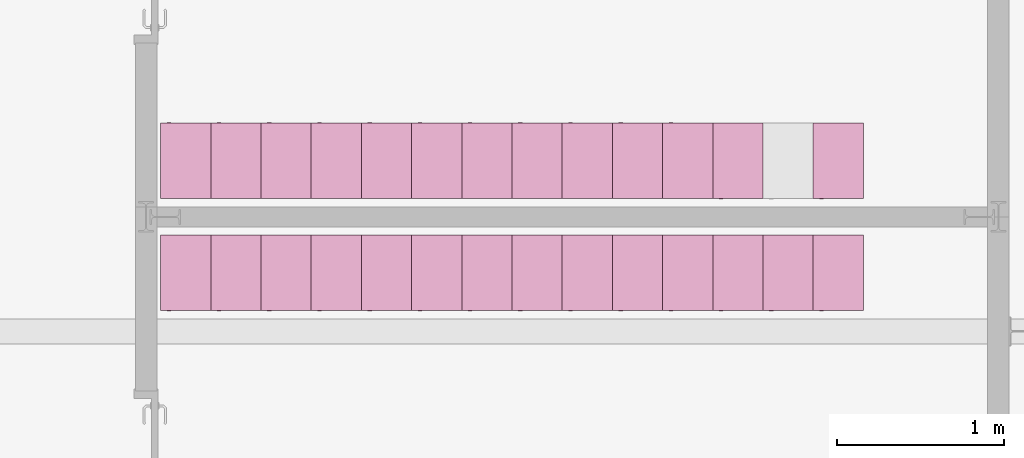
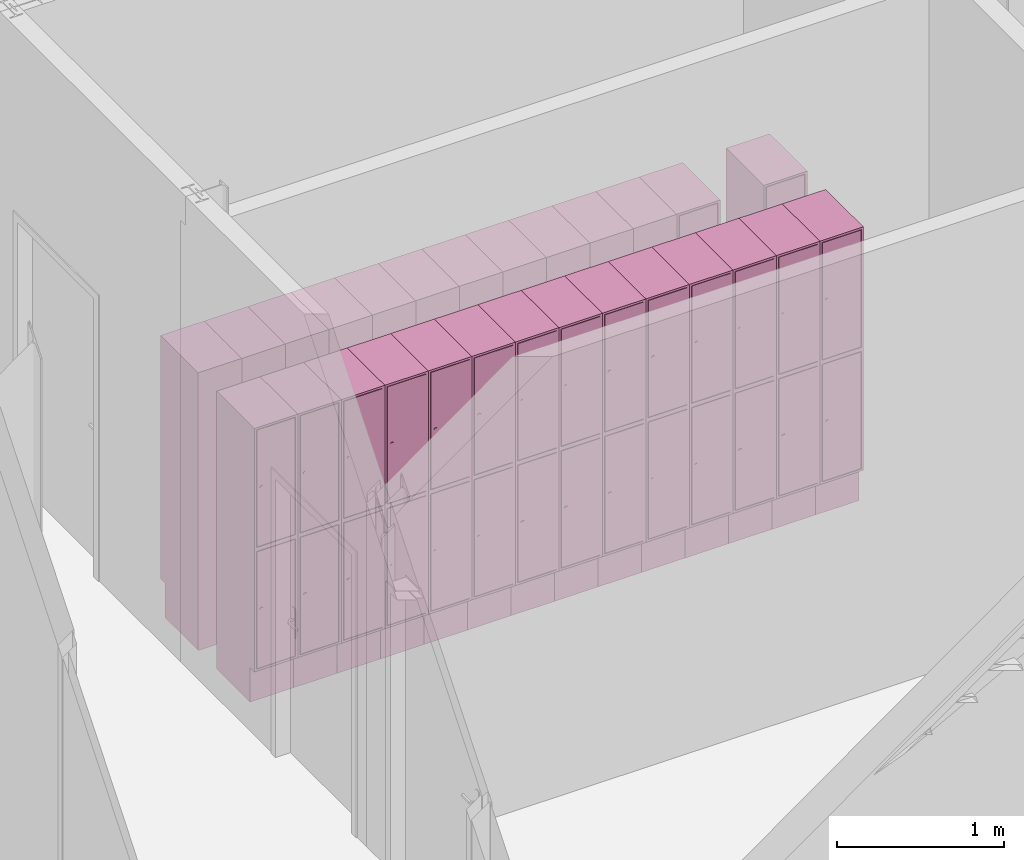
# One storey, part 119 of 137: 27 furnishings.
"""IFC2X3 building model written with IfcOpenShell, lengths in centimetres."""

from ifc_helpers import new_model, entity, si_unit, converted_unit, derived_unit, direction, frame, origin, place, context, subcontext, project, spatial, faceted_brep, source, transform, mapped, material, material_list, type_object, type_shapes, element, save


model = new_model("IFC2X3")

# Units and contexts
model_context = context("Model", 3, precision=0.001, world=origin(), true_north=direction((6.12303176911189e-17, 1.0)))
body_context = subcontext(model_context, "Body", "Model", "MODEL_VIEW")
ifc_project = project(units=[si_unit("LENGTHUNIT", "METRE", prefix="CENTI"), si_unit("AREAUNIT", "SQUARE_METRE"), si_unit("VOLUMEUNIT", "CUBIC_METRE"), converted_unit("PLANEANGLEUNIT", "DEGREE", entity("IfcRatioMeasure", 0.0174532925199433), si_unit("PLANEANGLEUNIT", "RADIAN"), dimensions=[0, 0, 0, 0, 0, 0, 0]), si_unit("MASSUNIT", "GRAM", prefix="KILO"), si_unit("TIMEUNIT", "SECOND"), si_unit("FREQUENCYUNIT", "HERTZ"), si_unit("THERMODYNAMICTEMPERATUREUNIT", "DEGREE_CELSIUS"), derived_unit("THERMALTRANSMITTANCEUNIT", [(si_unit("MASSUNIT", "GRAM", prefix="KILO"), 1), (si_unit("THERMODYNAMICTEMPERATUREUNIT", "KELVIN"), -1), (si_unit("TIMEUNIT", "SECOND"), -3)]), derived_unit("VOLUMETRICFLOWRATEUNIT", [(si_unit("LENGTHUNIT", "METRE"), 3), (si_unit("TIMEUNIT", "SECOND"), -1)]), si_unit("ELECTRICCURRENTUNIT", "AMPERE"), si_unit("ELECTRICVOLTAGEUNIT", "VOLT"), si_unit("POWERUNIT", "WATT"), si_unit("FORCEUNIT", "NEWTON", prefix="KILO"), si_unit("ILLUMINANCEUNIT", "LUX"), si_unit("LUMINOUSFLUXUNIT", "LUMEN"), si_unit("LUMINOUSINTENSITYUNIT", "CANDELA"), derived_unit("USERDEFINED", [(si_unit("MASSUNIT", "GRAM", prefix="KILO"), -1), (si_unit("LENGTHUNIT", "METRE"), -2), (si_unit("TIMEUNIT", "SECOND"), 3), (si_unit("LUMINOUSFLUXUNIT", "LUMEN"), 1)]), derived_unit("LINEARVELOCITYUNIT", [(si_unit("LENGTHUNIT", "METRE"), 1), (si_unit("TIMEUNIT", "SECOND"), -1)]), si_unit("PRESSUREUNIT", "PASCAL"), derived_unit("USERDEFINED", [(si_unit("LENGTHUNIT", "METRE"), -2), (si_unit("MASSUNIT", "GRAM", prefix="KILO"), 1), (si_unit("TIMEUNIT", "SECOND"), -2)])], contexts=[model_context])

# Site, building, storey, space
site_placement = place(None, frame((8.62739174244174, -249.285249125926, 0.0)))
site = spatial("IfcSite", under=ifc_project, at=site_placement, Name="Default", CompositionType="ELEMENT")
building_placement = place(site_placement, origin())
building = spatial("IfcBuilding", under=site, at=building_placement, CompositionType="ELEMENT")
storey_placement = place(building_placement, origin())
storey = spatial("IfcBuildingStorey", under=building, at=storey_placement, Name="RDC", CompositionType="ELEMENT", Elevation=-8.82465566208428e-11)
space_1_placement = place(storey_placement, origin())
space_1 = spatial("IfcSpace", under=storey, at=space_1_placement, Name="078", CompositionType="ELEMENT", InteriorOrExteriorSpace="INTERNAL")

# Furnishings
ifc_material_1 = material(Name="Peinture - Grise")
ifc_material_2 = material(Name="Peinture - Blanc")
ifc_material_list_1 = material_list([ifc_material_1, ifc_material_2])
ifc_material_list_2 = material_list([ifc_material_1, ifc_material_2])
furniture_type_1 = type_object("IfcFurnitureType", Name="Casiers 1x2", AssemblyPlace="NOTDEFINED", material=ifc_material_list_2)
shared_shape_1 = source(origin(), body_context, "Body", "Brep", [
    faceted_brep([(4.63888665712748, 0.299999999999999, 70.5824072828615), (4.96241046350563, 0.299999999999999, 70.6250000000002), (5.28593426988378, 0.299999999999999, 70.5824072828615), (5.58741046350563, 0.299999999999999, 70.4575317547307), (5.84629393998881, 0.299999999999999, 70.2588834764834), (6.04494221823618, 0.299999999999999, 70.0), (6.16981774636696, 0.299999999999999, 69.6985238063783), (6.21241046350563, 0.299999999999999, 69.3750000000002), (6.16981774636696, 0.299999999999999, 69.051476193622), (6.04494221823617, 0.299999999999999, 68.7500000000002), (5.84629393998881, 0.299999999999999, 68.491116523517), (5.58741046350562, 0.299999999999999, 68.2924682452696), (5.28593426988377, 0.299999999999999, 68.1675927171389), (4.96241046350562, 0.299999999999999, 68.1250000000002), (4.63888665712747, 0.299999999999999, 68.1675927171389), (4.33741046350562, 0.299999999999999, 68.2924682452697), (4.07852698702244, 0.299999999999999, 68.491116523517), (3.87987870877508, 0.299999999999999, 68.7500000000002), (3.75500318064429, 0.299999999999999, 69.0514761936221), (3.71241046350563, 0.299999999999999, 69.3750000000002), (3.75500318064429, 0.299999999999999, 69.6985238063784), (3.87987870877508, 0.299999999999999, 70.0), (4.07852698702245, 0.299999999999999, 70.2588834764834), (4.33741046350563, 0.299999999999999, 70.4575317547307), (5.28593426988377, 0.0, 68.1675927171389), (5.58741046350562, 0.0, 68.2924682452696), (5.84629393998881, 0.0, 68.491116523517), (6.04494221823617, 0.0, 68.7500000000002), (6.16981774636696, 0.0, 69.051476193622), (6.21241046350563, 0.0, 69.3750000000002), (6.16981774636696, 0.0, 69.6985238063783), (6.04494221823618, 0.0, 70.0), (5.84629393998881, 0.0, 70.2588834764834), (5.58741046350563, 0.0, 70.4575317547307), (5.28593426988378, 0.0, 70.5824072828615), (4.96241046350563, 0.0, 70.6250000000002), (4.63888665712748, 0.0, 70.5824072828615), (4.33741046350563, 0.0, 70.4575317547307), (4.07852698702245, 0.0, 70.2588834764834), (3.87987870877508, 0.0, 70.0), (3.75500318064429, 0.0, 69.6985238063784), (3.71241046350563, 0.0, 69.3750000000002), (3.75500318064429, 0.0, 69.0514761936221), (3.87987870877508, 0.0, 68.7500000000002), (4.07852698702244, 0.0, 68.491116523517), (4.33741046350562, 0.0, 68.2924682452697), (4.63888665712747, 0.0, 68.1675927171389), (4.96241046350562, 0.0, 68.1250000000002)], [[[0, 1, 2, 3, 4, 5, 6, 7, 8, 9, 10, 11, 12, 13, 14, 15, 16, 17, 18, 19, 20, 21, 22, 23]], [[24, 25, 26, 27, 28, 29, 30, 31, 32, 33, 34, 35, 36, 37, 38, 39, 40, 41, 42, 43, 44, 45, 46, 47]], [[18, 42, 41, 19]], [[17, 43, 42, 18]], [[45, 44, 16, 15]], [[17, 16, 44, 43]], [[46, 45, 15, 14]], [[47, 46, 14, 13]], [[12, 24, 47, 13]], [[11, 25, 24, 12]], [[27, 26, 10, 9]], [[11, 10, 26, 25]], [[28, 27, 9, 8]], [[29, 28, 8, 7]], [[6, 30, 29, 7]], [[5, 31, 30, 6]], [[33, 32, 4, 3]], [[5, 4, 32, 31]], [[34, 33, 3, 2]], [[35, 34, 2, 1]], [[0, 36, 35, 1]], [[23, 37, 36, 0]], [[39, 38, 22, 21]], [[23, 22, 38, 37]], [[40, 39, 21, 20]], [[41, 40, 20, 19]]]),
    faceted_brep([(5.58741046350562, 0.0, 157.042468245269), (5.84629393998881, 0.0, 157.241116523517), (6.04494221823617, 0.0, 157.5), (6.16981774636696, 0.0, 157.801476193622), (6.21241046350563, 0.0, 158.125), (6.16981774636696, 0.0, 158.448523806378), (6.04494221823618, 0.0, 158.75), (5.84629393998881, 0.0, 159.008883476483), (5.58741046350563, 0.0, 159.207531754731), (5.28593426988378, 0.0, 159.332407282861), (4.96241046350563, 0.0, 159.375), (4.63888665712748, 0.0, 159.332407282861), (4.33741046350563, 0.0, 159.207531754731), (4.07852698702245, 0.0, 159.008883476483), (3.87987870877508, 0.0, 158.75), (3.75500318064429, 0.0, 158.448523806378), (3.71241046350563, 0.0, 158.125), (3.75500318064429, 0.0, 157.801476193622), (3.87987870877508, 0.0, 157.5), (4.07852698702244, 0.0, 157.241116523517), (4.33741046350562, 0.0, 157.042468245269), (4.63888665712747, 0.0, 156.917592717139), (4.96241046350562, 0.0, 156.875), (5.28593426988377, 0.0, 156.917592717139), (5.58741046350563, 0.299999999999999, 159.207531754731), (5.84629393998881, 0.299999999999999, 159.008883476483), (6.04494221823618, 0.299999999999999, 158.75), (6.16981774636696, 0.299999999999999, 158.448523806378), (6.21241046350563, 0.299999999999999, 158.125), (6.16981774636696, 0.299999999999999, 157.801476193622), (6.04494221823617, 0.299999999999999, 157.5), (5.84629393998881, 0.299999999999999, 157.241116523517), (5.58741046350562, 0.299999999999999, 157.042468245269), (5.28593426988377, 0.299999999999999, 156.917592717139), (4.96241046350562, 0.299999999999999, 156.875), (4.63888665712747, 0.299999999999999, 156.917592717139), (4.33741046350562, 0.299999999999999, 157.042468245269), (4.07852698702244, 0.299999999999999, 157.241116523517), (3.87987870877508, 0.299999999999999, 157.5), (3.75500318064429, 0.299999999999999, 157.801476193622), (3.71241046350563, 0.299999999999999, 158.125), (3.75500318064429, 0.299999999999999, 158.448523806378), (3.87987870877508, 0.299999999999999, 158.75), (4.07852698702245, 0.299999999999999, 159.008883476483), (4.33741046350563, 0.299999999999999, 159.207531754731), (4.63888665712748, 0.299999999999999, 159.332407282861), (4.96241046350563, 0.299999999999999, 159.375), (5.28593426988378, 0.299999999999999, 159.332407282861)], [[[0, 1, 2, 3, 4, 5, 6, 7, 8, 9, 10, 11, 12, 13, 14, 15, 16, 17, 18, 19, 20, 21, 22, 23]], [[24, 25, 26, 27, 28, 29, 30, 31, 32, 33, 34, 35, 36, 37, 38, 39, 40, 41, 42, 43, 44, 45, 46, 47]], [[39, 17, 16, 40]], [[38, 18, 17, 39]], [[20, 19, 37, 36]], [[38, 37, 19, 18]], [[21, 20, 36, 35]], [[22, 21, 35, 34]], [[33, 23, 22, 34]], [[32, 0, 23, 33]], [[2, 1, 31, 30]], [[32, 31, 1, 0]], [[3, 2, 30, 29]], [[4, 3, 29, 28]], [[27, 5, 4, 28]], [[26, 6, 5, 27]], [[8, 7, 25, 24]], [[26, 25, 7, 6]], [[9, 8, 24, 47]], [[10, 9, 47, 46]], [[45, 11, 10, 46]], [[44, 12, 11, 45]], [[14, 13, 43, 42]], [[44, 43, 13, 12]], [[15, 14, 42, 41]], [[16, 15, 41, 40]]]),
    faceted_brep([(30.0, 45.3, 25.0), (0.0, 45.3, 25.0), (0.0, 5.3, 25.0), (30.0, 5.3, 25.0), (30.0, 45.3, 0.0), (30.0, 5.3, 0.0), (0.0, 5.3, 0.0), (0.0, 45.3, 0.0)], [[[0, 1, 2, 3]], [[4, 5, 6, 7]], [[1, 0, 4, 7]], [[2, 1, 7, 6]], [[3, 2, 6, 5]], [[0, 3, 5, 4]]]),
    faceted_brep([(28.1999999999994, 0.300000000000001, 200.7), (1.79999999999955, 0.300000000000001, 200.7), (1.79999999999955, 0.300000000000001, 115.55), (28.1999999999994, 0.300000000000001, 115.55), (28.1999999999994, 1.79999999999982, 200.7), (28.1999999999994, 1.79999999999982, 115.55), (1.79999999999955, 1.79999999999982, 115.55), (1.79999999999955, 1.79999999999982, 200.7)], [[[0, 1, 2, 3]], [[4, 5, 6, 7]], [[1, 0, 4, 7]], [[2, 1, 7, 6]], [[3, 2, 6, 5]], [[0, 3, 5, 4]]]),
    faceted_brep([(1.79999999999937, 0.300000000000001, 111.95), (28.1999999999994, 0.300000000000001, 111.95), (28.1999999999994, 1.79999999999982, 111.95), (1.79999999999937, 1.79999999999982, 111.95), (1.79999999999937, 0.300000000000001, 26.8000000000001), (1.79999999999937, 1.79999999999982, 26.8000000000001), (28.1999999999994, 0.300000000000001, 26.8000000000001), (28.1999999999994, 1.79999999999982, 26.8000000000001)], [[[0, 1, 2, 3]], [[4, 0, 3, 5]], [[6, 4, 5, 7]], [[1, 6, 7, 2]], [[2, 7, 5, 3]], [[1, 0, 4, 6]]]),
    faceted_brep([(30.0, 0.300000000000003, 25.0), (30.0, 45.3000000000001, 25.0), (30.0, 45.3000000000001, 202.5), (30.0, 0.300000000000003, 202.5), (0.0, 0.300000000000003, 25.0), (0.0, 0.300000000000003, 202.5), (0.0, 45.3000000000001, 202.5), (0.0, 45.3000000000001, 25.0), (28.4999999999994, 0.300000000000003, 26.5), (1.49999999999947, 0.300000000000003, 26.5), (1.49999999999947, 0.300000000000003, 112.25), (28.4999999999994, 0.300000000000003, 112.25), (28.4999999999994, 0.300000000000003, 115.25), (1.49999999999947, 0.300000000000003, 115.25), (1.49999999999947, 0.300000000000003, 201.0), (28.4999999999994, 0.300000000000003, 201.0), (28.4999999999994, 43.7999999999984, 26.5), (28.4999999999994, 43.7999999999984, 112.25), (1.49999999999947, 43.7999999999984, 112.25), (1.49999999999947, 43.7999999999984, 26.5), (28.4999999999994, 43.7999999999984, 115.25), (1.49999999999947, 43.7999999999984, 115.25), (1.49999999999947, 43.7999999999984, 201.0), (28.4999999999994, 43.7999999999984, 201.0)], [[[0, 1, 2, 3]], [[4, 5, 6, 7]], [[1, 0, 4, 7]], [[2, 1, 7, 6]], [[3, 2, 6, 5]], [[0, 3, 5, 4], [8, 9, 10, 11], [12, 13, 14, 15]], [[16, 17, 18, 19]], [[16, 19, 9, 8]], [[19, 18, 10, 9]], [[18, 17, 11, 10]], [[17, 16, 8, 11]], [[20, 21, 13, 12]], [[21, 22, 14, 13]], [[22, 23, 15, 14]], [[23, 20, 12, 15]], [[20, 23, 22, 21]]]),
])
type_shapes(furniture_type_1, [shared_shape_1])
furnishing_1_placement = place(space_1_placement, frame((1188.90482780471, 1874.18020806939, 0.0)))
element("IfcFurnishingElement", 1, at=furnishing_1_placement, inside=space_1, type_object=furniture_type_1, material=ifc_material_list_1, Name="Casiers 1x2:Casiers 1x2", ObjectType="Casiers 1x2", context=body_context, shape_type="MappedRepresentation", body=[
    mapped(shared_shape_1, transform((0.0, 0.0, 0.0), scale=1.0)),
])
ifc_material_list_3 = material_list([ifc_material_1, ifc_material_2])
furnishing_2_placement = place(space_1_placement, frame((1158.90482780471, 1874.18020806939, 0.0)))
element("IfcFurnishingElement", 2, at=furnishing_2_placement, inside=space_1, type_object=furniture_type_1, material=ifc_material_list_3, Name="Casiers 1x2:Casiers 1x2", ObjectType="Casiers 1x2", context=body_context, shape_type="MappedRepresentation", body=[
    mapped(shared_shape_1, transform((0.0, 0.0, 0.0), scale=1.0)),
])
ifc_material_list_4 = material_list([ifc_material_1, ifc_material_2])
furnishing_3_placement = place(space_1_placement, frame((1128.90482780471, 1874.18020806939, 0.0)))
element("IfcFurnishingElement", 3, at=furnishing_3_placement, inside=space_1, type_object=furniture_type_1, material=ifc_material_list_4, Name="Casiers 1x2:Casiers 1x2", ObjectType="Casiers 1x2", context=body_context, shape_type="MappedRepresentation", body=[
    mapped(shared_shape_1, transform((0.0, 0.0, 0.0), scale=1.0)),
])
ifc_material_list_5 = material_list([ifc_material_1, ifc_material_2])
furnishing_4_placement = place(space_1_placement, frame((1098.90482780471, 1874.18020806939, 0.0)))
element("IfcFurnishingElement", 4, at=furnishing_4_placement, inside=space_1, type_object=furniture_type_1, material=ifc_material_list_5, Name="Casiers 1x2:Casiers 1x2", ObjectType="Casiers 1x2", context=body_context, shape_type="MappedRepresentation", body=[
    mapped(shared_shape_1, transform((0.0, 0.0, 0.0), scale=1.0)),
])
ifc_material_list_6 = material_list([ifc_material_1, ifc_material_2])
furnishing_5_placement = place(space_1_placement, frame((1068.90482780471, 1874.18020806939, 0.0)))
element("IfcFurnishingElement", 5, at=furnishing_5_placement, inside=space_1, type_object=furniture_type_1, material=ifc_material_list_6, Name="Casiers 1x2:Casiers 1x2", ObjectType="Casiers 1x2", context=body_context, shape_type="MappedRepresentation", body=[
    mapped(shared_shape_1, transform((0.0, 0.0, 0.0), scale=1.0)),
])
ifc_material_list_7 = material_list([ifc_material_1, ifc_material_2])
furnishing_6_placement = place(space_1_placement, frame((1038.90482780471, 1874.18020806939, 0.0)))
element("IfcFurnishingElement", 6, at=furnishing_6_placement, inside=space_1, type_object=furniture_type_1, material=ifc_material_list_7, Name="Casiers 1x2:Casiers 1x2", ObjectType="Casiers 1x2", context=body_context, shape_type="MappedRepresentation", body=[
    mapped(shared_shape_1, transform((0.0, 0.0, 0.0), scale=1.0)),
])
ifc_material_list_8 = material_list([ifc_material_1, ifc_material_2])
furnishing_7_placement = place(space_1_placement, frame((1338.90482780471, 1874.18020806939, 0.0)))
element("IfcFurnishingElement", 7, at=furnishing_7_placement, inside=space_1, type_object=furniture_type_1, material=ifc_material_list_8, Name="Casiers 1x2:Casiers 1x2", ObjectType="Casiers 1x2", context=body_context, shape_type="MappedRepresentation", body=[
    mapped(shared_shape_1, transform((0.0, 0.0, 0.0), scale=1.0)),
])
ifc_material_list_9 = material_list([ifc_material_1, ifc_material_2])
furnishing_8_placement = place(space_1_placement, frame((1308.90482780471, 1874.18020806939, 0.0)))
element("IfcFurnishingElement", 8, at=furnishing_8_placement, inside=space_1, type_object=furniture_type_1, material=ifc_material_list_9, Name="Casiers 1x2:Casiers 1x2", ObjectType="Casiers 1x2", context=body_context, shape_type="MappedRepresentation", body=[
    mapped(shared_shape_1, transform((0.0, 0.0, 0.0), scale=1.0)),
])
ifc_material_list_10 = material_list([ifc_material_1, ifc_material_2])
furnishing_9_placement = place(space_1_placement, frame((1278.90482780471, 1874.18020806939, 0.0)))
element("IfcFurnishingElement", 9, at=furnishing_9_placement, inside=space_1, type_object=furniture_type_1, material=ifc_material_list_10, Name="Casiers 1x2:Casiers 1x2", ObjectType="Casiers 1x2", context=body_context, shape_type="MappedRepresentation", body=[
    mapped(shared_shape_1, transform((0.0, 0.0, 0.0), scale=1.0)),
])
ifc_material_list_11 = material_list([ifc_material_1, ifc_material_2])
furnishing_10_placement = place(space_1_placement, frame((1248.90482780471, 1874.18020806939, 0.0)))
element("IfcFurnishingElement", 10, at=furnishing_10_placement, inside=space_1, type_object=furniture_type_1, material=ifc_material_list_11, Name="Casiers 1x2:Casiers 1x2", ObjectType="Casiers 1x2", context=body_context, shape_type="MappedRepresentation", body=[
    mapped(shared_shape_1, transform((0.0, 0.0, 0.0), scale=1.0)),
])
ifc_material_list_12 = material_list([ifc_material_1, ifc_material_2])
furnishing_11_placement = place(space_1_placement, frame((1218.90482780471, 1874.18020806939, 0.0)))
element("IfcFurnishingElement", 11, at=furnishing_11_placement, inside=space_1, type_object=furniture_type_1, material=ifc_material_list_12, Name="Casiers 1x2:Casiers 1x2", ObjectType="Casiers 1x2", context=body_context, shape_type="MappedRepresentation", body=[
    mapped(shared_shape_1, transform((0.0, 0.0, 0.0), scale=1.0)),
])
ifc_material_list_13 = material_list([ifc_material_1, ifc_material_2])
furnishing_12_placement = place(space_1_placement, frame((1398.90482780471, 1874.18020806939, 0.0)))
element("IfcFurnishingElement", 12, at=furnishing_12_placement, inside=space_1, type_object=furniture_type_1, material=ifc_material_list_13, Name="Casiers 1x2:Casiers 1x2", ObjectType="Casiers 1x2", context=body_context, shape_type="MappedRepresentation", body=[
    mapped(shared_shape_1, transform((0.0, 0.0, 0.0), scale=1.0)),
])
ifc_material_list_14 = material_list([ifc_material_1, ifc_material_2])
furnishing_13_placement = place(space_1_placement, frame((1368.90482780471, 1874.18020806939, 0.0)))
element("IfcFurnishingElement", 13, at=furnishing_13_placement, inside=space_1, type_object=furniture_type_1, material=ifc_material_list_14, Name="Casiers 1x2:Casiers 1x2", ObjectType="Casiers 1x2", context=body_context, shape_type="MappedRepresentation", body=[
    mapped(shared_shape_1, transform((0.0, 0.0, 0.0), scale=1.0)),
])

# Space
space_2_placement = place(storey_placement, origin())
space_2 = spatial("IfcSpace", under=storey, at=space_2_placement, Name="079", CompositionType="ELEMENT", InteriorOrExteriorSpace="INTERNAL")

# Furnishings
ifc_material_list_15 = material_list([ifc_material_1, ifc_material_2])
furnishing_14_placement = place(space_2_placement, frame((1428.90482780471, 1941.18020806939, 0.0)))
element("IfcFurnishingElement", 14, at=furnishing_14_placement, inside=space_2, type_object=furniture_type_1, material=ifc_material_list_15, Name="Casiers 1x2:Casiers 1x2", ObjectType="Casiers 1x2", context=body_context, shape_type="MappedRepresentation", body=[
    mapped(shared_shape_1, transform((0.0, 0.0, 0.0), scale=1.0)),
])
ifc_material_list_16 = material_list([ifc_material_1, ifc_material_2])
furnishing_15_placement = place(space_2_placement, frame((1368.90482780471, 1941.18020806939, 0.0)))
element("IfcFurnishingElement", 15, at=furnishing_15_placement, inside=space_2, type_object=furniture_type_1, material=ifc_material_list_16, Name="Casiers 1x2:Casiers 1x2", ObjectType="Casiers 1x2", context=body_context, shape_type="MappedRepresentation", body=[
    mapped(shared_shape_1, transform((0.0, 0.0, 0.0), scale=1.0)),
])
ifc_material_list_17 = material_list([ifc_material_1, ifc_material_2])
furnishing_16_placement = place(space_1_placement, frame((1428.90482780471, 1874.18020806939, 0.0)))
element("IfcFurnishingElement", 16, at=furnishing_16_placement, inside=space_1, type_object=furniture_type_1, material=ifc_material_list_17, Name="Casiers 1x2:Casiers 1x2", ObjectType="Casiers 1x2", context=body_context, shape_type="MappedRepresentation", body=[
    mapped(shared_shape_1, transform((0.0, 0.0, 0.0), scale=1.0)),
])
ifc_material_list_18 = material_list([ifc_material_1, ifc_material_2])
ifc_material_list_19 = material_list([ifc_material_1, ifc_material_2])
furniture_type_2 = type_object("IfcFurnitureType", Name="Casiers 1x2", AssemblyPlace="NOTDEFINED", material=ifc_material_list_19)
shared_shape_2 = source(origin(), body_context, "Body", "Brep", [
    faceted_brep([(5.28593426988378, 45.0, 70.5824072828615), (4.96241046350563, 45.0, 70.6250000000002), (4.63888665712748, 45.0, 70.5824072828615), (4.33741046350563, 45.0, 70.4575317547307), (4.07852698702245, 45.0, 70.2588834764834), (3.87987870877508, 45.0, 70.0), (3.75500318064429, 45.0, 69.6985238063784), (3.71241046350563, 45.0, 69.3750000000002), (3.75500318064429, 45.0, 69.0514761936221), (3.87987870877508, 45.0, 68.7500000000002), (4.07852698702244, 45.0, 68.491116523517), (4.33741046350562, 45.0, 68.2924682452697), (4.63888665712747, 45.0, 68.1675927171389), (4.96241046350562, 45.0, 68.1250000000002), (5.28593426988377, 45.0, 68.1675927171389), (5.58741046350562, 45.0, 68.2924682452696), (5.84629393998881, 45.0, 68.491116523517), (6.04494221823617, 45.0, 68.7500000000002), (6.16981774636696, 45.0, 69.051476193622), (6.21241046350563, 45.0, 69.3750000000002), (6.16981774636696, 45.0, 69.6985238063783), (6.04494221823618, 45.0, 70.0), (5.84629393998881, 45.0, 70.2588834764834), (5.58741046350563, 45.0, 70.4575317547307), (5.84629393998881, 45.3000000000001, 68.491116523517), (5.58741046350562, 45.3000000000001, 68.2924682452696), (5.28593426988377, 45.3000000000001, 68.1675927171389), (4.96241046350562, 45.3000000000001, 68.1250000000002), (4.63888665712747, 45.3000000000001, 68.1675927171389), (4.33741046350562, 45.3000000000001, 68.2924682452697), (4.07852698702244, 45.3000000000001, 68.491116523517), (3.87987870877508, 45.3000000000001, 68.7500000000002), (3.75500318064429, 45.3000000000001, 69.0514761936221), (3.71241046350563, 45.3000000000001, 69.3750000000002), (3.75500318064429, 45.3000000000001, 69.6985238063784), (3.87987870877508, 45.3000000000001, 70.0), (4.07852698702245, 45.3000000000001, 70.2588834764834), (4.33741046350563, 45.3000000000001, 70.4575317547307), (4.63888665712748, 45.3000000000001, 70.5824072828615), (4.96241046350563, 45.3000000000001, 70.6250000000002), (5.28593426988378, 45.3000000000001, 70.5824072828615), (5.58741046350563, 45.3000000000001, 70.4575317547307), (5.84629393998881, 45.3000000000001, 70.2588834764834), (6.04494221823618, 45.3000000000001, 70.0), (6.16981774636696, 45.3000000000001, 69.6985238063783), (6.21241046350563, 45.3000000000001, 69.3750000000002), (6.16981774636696, 45.3000000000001, 69.051476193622), (6.04494221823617, 45.3000000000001, 68.7500000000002)], [[[0, 1, 2, 3, 4, 5, 6, 7, 8, 9, 10, 11, 12, 13, 14, 15, 16, 17, 18, 19, 20, 21, 22, 23]], [[24, 25, 26, 27, 28, 29, 30, 31, 32, 33, 34, 35, 36, 37, 38, 39, 40, 41, 42, 43, 44, 45, 46, 47]], [[7, 33, 32, 8]], [[8, 32, 31, 9]], [[11, 10, 30, 29]], [[30, 10, 9, 31]], [[12, 11, 29, 28]], [[12, 28, 27, 13]], [[13, 27, 26, 14]], [[14, 26, 25, 15]], [[17, 16, 24, 47]], [[24, 16, 15, 25]], [[18, 17, 47, 46]], [[18, 46, 45, 19]], [[19, 45, 44, 20]], [[20, 44, 43, 21]], [[23, 22, 42, 41]], [[42, 22, 21, 43]], [[0, 23, 41, 40]], [[0, 40, 39, 1]], [[1, 39, 38, 2]], [[2, 38, 37, 3]], [[5, 4, 36, 35]], [[36, 4, 3, 37]], [[6, 5, 35, 34]], [[6, 34, 33, 7]]]),
    faceted_brep([(5.28593426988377, 45.3000000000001, 156.917592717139), (4.96241046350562, 45.3000000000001, 156.875), (4.63888665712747, 45.3000000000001, 156.917592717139), (4.33741046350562, 45.3000000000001, 157.042468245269), (4.07852698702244, 45.3000000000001, 157.241116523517), (3.87987870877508, 45.3000000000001, 157.5), (3.75500318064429, 45.3000000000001, 157.801476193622), (3.71241046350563, 45.3000000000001, 158.125), (3.75500318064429, 45.3000000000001, 158.448523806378), (3.87987870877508, 45.3000000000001, 158.75), (4.07852698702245, 45.3000000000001, 159.008883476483), (4.33741046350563, 45.3000000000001, 159.207531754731), (4.63888665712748, 45.3000000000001, 159.332407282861), (4.96241046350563, 45.3000000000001, 159.375), (5.28593426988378, 45.3000000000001, 159.332407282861), (5.58741046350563, 45.3000000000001, 159.207531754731), (5.84629393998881, 45.3000000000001, 159.008883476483), (6.04494221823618, 45.3000000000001, 158.75), (6.16981774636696, 45.3000000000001, 158.448523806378), (6.21241046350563, 45.3000000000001, 158.125), (6.16981774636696, 45.3000000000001, 157.801476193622), (6.04494221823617, 45.3000000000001, 157.5), (5.84629393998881, 45.3000000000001, 157.241116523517), (5.58741046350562, 45.3000000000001, 157.042468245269), (5.28593426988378, 45.0, 159.332407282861), (4.96241046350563, 45.0, 159.375), (4.63888665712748, 45.0, 159.332407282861), (4.33741046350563, 45.0, 159.207531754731), (4.07852698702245, 45.0, 159.008883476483), (3.87987870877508, 45.0, 158.75), (3.75500318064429, 45.0, 158.448523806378), (3.71241046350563, 45.0, 158.125), (3.75500318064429, 45.0, 157.801476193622), (3.87987870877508, 45.0, 157.5), (4.07852698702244, 45.0, 157.241116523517), (4.33741046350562, 45.0, 157.042468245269), (4.63888665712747, 45.0, 156.917592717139), (4.96241046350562, 45.0, 156.875), (5.28593426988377, 45.0, 156.917592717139), (5.58741046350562, 45.0, 157.042468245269), (5.84629393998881, 45.0, 157.241116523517), (6.04494221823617, 45.0, 157.5), (6.16981774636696, 45.0, 157.801476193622), (6.21241046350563, 45.0, 158.125), (6.16981774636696, 45.0, 158.448523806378), (6.04494221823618, 45.0, 158.75), (5.84629393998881, 45.0, 159.008883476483), (5.58741046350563, 45.0, 159.207531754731)], [[[0, 1, 2, 3, 4, 5, 6, 7, 8, 9, 10, 11, 12, 13, 14, 15, 16, 17, 18, 19, 20, 21, 22, 23]], [[24, 25, 26, 27, 28, 29, 30, 31, 32, 33, 34, 35, 36, 37, 38, 39, 40, 41, 42, 43, 44, 45, 46, 47]], [[31, 7, 6, 32]], [[32, 6, 5, 33]], [[35, 34, 4, 3]], [[4, 34, 33, 5]], [[36, 35, 3, 2]], [[36, 2, 1, 37]], [[37, 1, 0, 38]], [[38, 0, 23, 39]], [[41, 40, 22, 21]], [[22, 40, 39, 23]], [[42, 41, 21, 20]], [[42, 20, 19, 43]], [[43, 19, 18, 44]], [[44, 18, 17, 45]], [[47, 46, 16, 15]], [[16, 46, 45, 17]], [[24, 47, 15, 14]], [[24, 14, 13, 25]], [[25, 13, 12, 26]], [[26, 12, 11, 27]], [[29, 28, 10, 9]], [[10, 28, 27, 11]], [[30, 29, 9, 8]], [[30, 8, 7, 31]]]),
    faceted_brep([(30.0, 0.0, 25.0), (30.0, 40.0, 25.0), (0.0, 40.0, 25.0), (0.0, 0.0, 25.0), (30.0, 0.0, 0.0), (0.0, 0.0, 0.0), (0.0, 40.0, 0.0), (30.0, 40.0, 0.0)], [[[0, 1, 2, 3]], [[4, 5, 6, 7]], [[3, 5, 4, 0]], [[2, 6, 5, 3]], [[1, 7, 6, 2]], [[0, 4, 7, 1]]]),
    faceted_brep([(28.1999999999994, 45.0, 200.7), (28.1999999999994, 45.0, 115.55), (1.79999999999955, 45.0, 115.55), (1.79999999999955, 45.0, 200.7), (28.1999999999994, 43.5000000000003, 200.7), (1.79999999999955, 43.5000000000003, 200.7), (1.79999999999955, 43.5000000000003, 115.55), (28.1999999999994, 43.5000000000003, 115.55)], [[[0, 1, 2, 3]], [[4, 5, 6, 7]], [[3, 5, 4, 0]], [[2, 6, 5, 3]], [[1, 7, 6, 2]], [[0, 4, 7, 1]]]),
    faceted_brep([(1.79999999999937, 45.0, 111.95), (1.79999999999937, 43.5000000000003, 111.95), (28.1999999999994, 43.5000000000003, 111.95), (28.1999999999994, 45.0, 111.95), (1.79999999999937, 45.0, 26.8000000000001), (1.79999999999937, 43.5000000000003, 26.8000000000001), (28.1999999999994, 45.0, 26.8000000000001), (28.1999999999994, 43.5000000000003, 26.8000000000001)], [[[0, 1, 2, 3]], [[4, 5, 1, 0]], [[6, 7, 5, 4]], [[3, 2, 7, 6]], [[2, 1, 5, 7]], [[3, 6, 4, 0]]]),
    faceted_brep([(30.0, 45.0, 25.0), (30.0, 45.0, 202.5), (30.0, 0.0, 202.5), (30.0, 0.0, 25.0), (0.0, 45.0, 25.0), (0.0, 0.0, 25.0), (0.0, 0.0, 202.5), (0.0, 45.0, 202.5), (28.4999999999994, 45.0, 26.5), (28.4999999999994, 45.0, 112.25), (1.49999999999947, 45.0, 112.25), (1.49999999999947, 45.0, 26.5), (28.4999999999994, 45.0, 115.25), (28.4999999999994, 45.0, 201.0), (1.49999999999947, 45.0, 201.0), (1.49999999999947, 45.0, 115.25), (28.4999999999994, 1.50000000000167, 26.5), (1.49999999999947, 1.50000000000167, 26.5), (1.49999999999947, 1.50000000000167, 112.25), (28.4999999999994, 1.50000000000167, 112.25), (28.4999999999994, 1.50000000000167, 115.25), (1.49999999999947, 1.50000000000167, 115.25), (1.49999999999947, 1.50000000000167, 201.0), (28.4999999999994, 1.50000000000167, 201.0)], [[[0, 1, 2, 3]], [[4, 5, 6, 7]], [[3, 5, 4, 0]], [[2, 6, 5, 3]], [[1, 7, 6, 2]], [[0, 4, 7, 1], [8, 9, 10, 11], [12, 13, 14, 15]], [[16, 17, 18, 19]], [[16, 8, 11, 17]], [[17, 11, 10, 18]], [[18, 10, 9, 19]], [[19, 9, 8, 16]], [[20, 12, 15, 21]], [[21, 15, 14, 22]], [[22, 14, 13, 23]], [[23, 13, 12, 20]], [[20, 21, 22, 23]]]),
])
type_shapes(furniture_type_2, [shared_shape_2])
furnishing_17_placement = place(space_2_placement, frame((1188.90482780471, 1941.48020806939, 0.0)))
element("IfcFurnishingElement", 17, at=furnishing_17_placement, inside=space_2, type_object=furniture_type_2, material=ifc_material_list_18, Name="Casiers 1x2:Casiers 1x2", ObjectType="Casiers 1x2", context=body_context, shape_type="MappedRepresentation", body=[
    mapped(shared_shape_2, transform((0.0, 0.0, 0.0), scale=1.0)),
])
ifc_material_list_20 = material_list([ifc_material_1, ifc_material_2])
furnishing_18_placement = place(space_2_placement, frame((1158.90482780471, 1941.48020806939, 0.0)))
element("IfcFurnishingElement", 18, at=furnishing_18_placement, inside=space_2, type_object=furniture_type_2, material=ifc_material_list_20, Name="Casiers 1x2:Casiers 1x2", ObjectType="Casiers 1x2", context=body_context, shape_type="MappedRepresentation", body=[
    mapped(shared_shape_2, transform((0.0, 0.0, 0.0), scale=1.0)),
])
ifc_material_list_21 = material_list([ifc_material_1, ifc_material_2])
furnishing_19_placement = place(space_2_placement, frame((1128.90482780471, 1941.48020806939, 0.0)))
element("IfcFurnishingElement", 19, at=furnishing_19_placement, inside=space_2, type_object=furniture_type_2, material=ifc_material_list_21, Name="Casiers 1x2:Casiers 1x2", ObjectType="Casiers 1x2", context=body_context, shape_type="MappedRepresentation", body=[
    mapped(shared_shape_2, transform((0.0, 0.0, 0.0), scale=1.0)),
])
ifc_material_list_22 = material_list([ifc_material_1, ifc_material_2])
furnishing_20_placement = place(space_2_placement, frame((1098.90482780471, 1941.48020806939, 0.0)))
element("IfcFurnishingElement", 20, at=furnishing_20_placement, inside=space_2, type_object=furniture_type_2, material=ifc_material_list_22, Name="Casiers 1x2:Casiers 1x2", ObjectType="Casiers 1x2", context=body_context, shape_type="MappedRepresentation", body=[
    mapped(shared_shape_2, transform((0.0, 0.0, 0.0), scale=1.0)),
])
ifc_material_list_23 = material_list([ifc_material_1, ifc_material_2])
furnishing_21_placement = place(space_2_placement, frame((1068.90482780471, 1941.48020806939, 0.0)))
element("IfcFurnishingElement", 21, at=furnishing_21_placement, inside=space_2, type_object=furniture_type_2, material=ifc_material_list_23, Name="Casiers 1x2:Casiers 1x2", ObjectType="Casiers 1x2", context=body_context, shape_type="MappedRepresentation", body=[
    mapped(shared_shape_2, transform((0.0, 0.0, 0.0), scale=1.0)),
])
ifc_material_list_24 = material_list([ifc_material_1, ifc_material_2])
furnishing_22_placement = place(space_2_placement, frame((1038.90482780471, 1941.48020806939, 0.0)))
element("IfcFurnishingElement", 22, at=furnishing_22_placement, inside=space_2, type_object=furniture_type_2, material=ifc_material_list_24, Name="Casiers 1x2:Casiers 1x2", ObjectType="Casiers 1x2", context=body_context, shape_type="MappedRepresentation", body=[
    mapped(shared_shape_2, transform((0.0, 0.0, 0.0), scale=1.0)),
])
ifc_material_list_25 = material_list([ifc_material_1, ifc_material_2])
furnishing_23_placement = place(space_2_placement, frame((1338.90482780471, 1941.48020806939, 0.0)))
element("IfcFurnishingElement", 23, at=furnishing_23_placement, inside=space_2, type_object=furniture_type_2, material=ifc_material_list_25, Name="Casiers 1x2:Casiers 1x2", ObjectType="Casiers 1x2", context=body_context, shape_type="MappedRepresentation", body=[
    mapped(shared_shape_2, transform((0.0, 0.0, 0.0), scale=1.0)),
])
ifc_material_list_26 = material_list([ifc_material_1, ifc_material_2])
furnishing_24_placement = place(space_2_placement, frame((1308.90482780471, 1941.48020806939, 0.0)))
element("IfcFurnishingElement", 24, at=furnishing_24_placement, inside=space_2, type_object=furniture_type_2, material=ifc_material_list_26, Name="Casiers 1x2:Casiers 1x2", ObjectType="Casiers 1x2", context=body_context, shape_type="MappedRepresentation", body=[
    mapped(shared_shape_2, transform((0.0, 0.0, 0.0), scale=1.0)),
])
ifc_material_list_27 = material_list([ifc_material_1, ifc_material_2])
furnishing_25_placement = place(space_2_placement, frame((1278.90482780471, 1941.48020806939, 0.0)))
element("IfcFurnishingElement", 25, at=furnishing_25_placement, inside=space_2, type_object=furniture_type_2, material=ifc_material_list_27, Name="Casiers 1x2:Casiers 1x2", ObjectType="Casiers 1x2", context=body_context, shape_type="MappedRepresentation", body=[
    mapped(shared_shape_2, transform((0.0, 0.0, 0.0), scale=1.0)),
])
ifc_material_list_28 = material_list([ifc_material_1, ifc_material_2])
furnishing_26_placement = place(space_2_placement, frame((1248.90482780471, 1941.48020806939, 0.0)))
element("IfcFurnishingElement", 26, at=furnishing_26_placement, inside=space_2, type_object=furniture_type_2, material=ifc_material_list_28, Name="Casiers 1x2:Casiers 1x2", ObjectType="Casiers 1x2", context=body_context, shape_type="MappedRepresentation", body=[
    mapped(shared_shape_2, transform((0.0, 0.0, 0.0), scale=1.0)),
])
ifc_material_list_29 = material_list([ifc_material_1, ifc_material_2])
furnishing_27_placement = place(space_2_placement, frame((1218.90482780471, 1941.48020806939, 0.0)))
element("IfcFurnishingElement", 27, at=furnishing_27_placement, inside=space_2, type_object=furniture_type_2, material=ifc_material_list_29, Name="Casiers 1x2:Casiers 1x2", ObjectType="Casiers 1x2", context=body_context, shape_type="MappedRepresentation", body=[
    mapped(shared_shape_2, transform((0.0, 0.0, 0.0), scale=1.0)),
])

save(model, "model.ifc")
